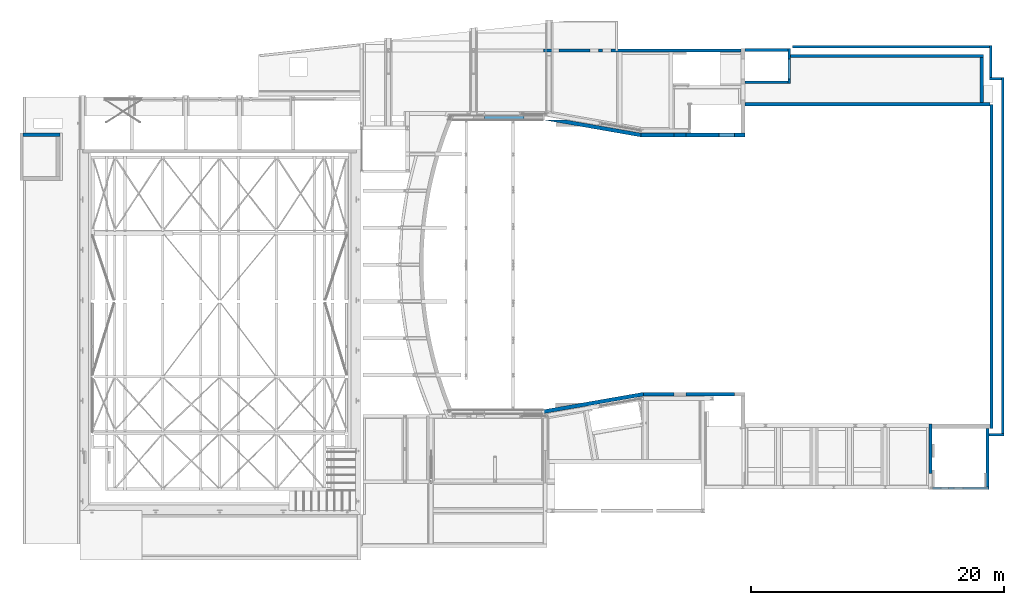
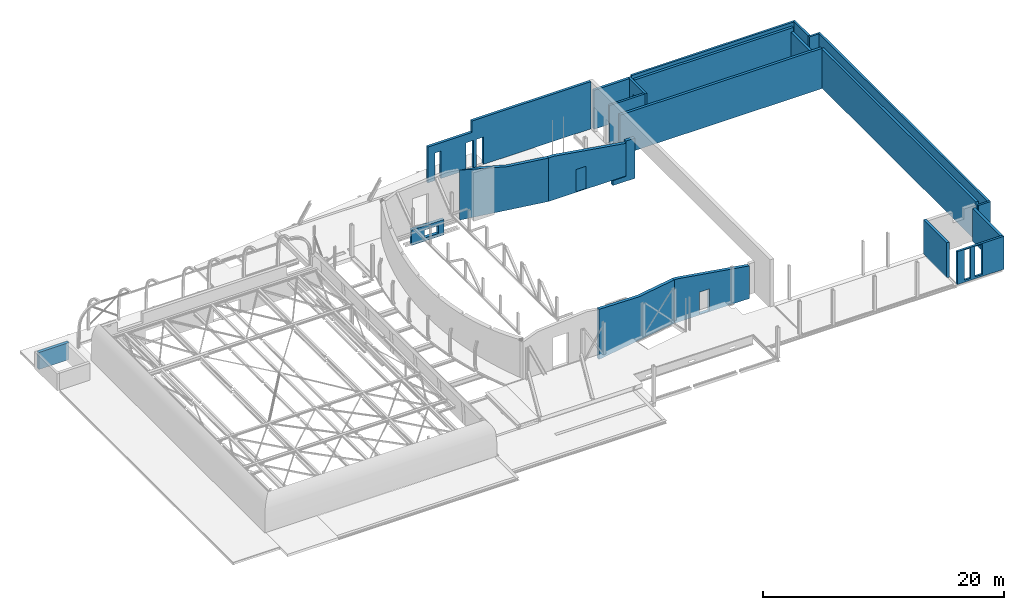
# One storey, part 32 of 38: 24 walls, 10 openings.
"""IFC2X3 building model written with IfcOpenShell, lengths in millimetres."""

from ifc_helpers import new_model, entity, si_unit, converted_unit, derived_unit, direction, frame, frame_2d, origin, origin_2d_with_axis, place, context, subcontext, project, spatial, polyline, rectangle, extrude, clip, halfspace, bounded_halfspace, faceted_brep, material, layer, layer_set, layer_usage, type_object, element, save


model = new_model("IFC2X3")

# Units and contexts
model_context = context("Model", 3, precision=0.01, world=origin(), true_north=direction((6.12303176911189e-17, 1.0)))
body_context = subcontext(model_context, "Body", "Model", "MODEL_VIEW")
ifc_project = project(units=[si_unit("LENGTHUNIT", "METRE", prefix="MILLI"), si_unit("AREAUNIT", "SQUARE_METRE", prefix="MILLI"), si_unit("VOLUMEUNIT", "CUBIC_METRE"), converted_unit("PLANEANGLEUNIT", "DEGREE", entity("IfcRatioMeasure", 0.0174532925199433), si_unit("PLANEANGLEUNIT", "RADIAN"), dimensions=[0, 0, 0, 0, 0, 0, 0]), si_unit("MASSUNIT", "GRAM", prefix="KILO"), derived_unit("MASSDENSITYUNIT", [(si_unit("MASSUNIT", "GRAM", prefix="KILO"), 1), (si_unit("LENGTHUNIT", "METRE"), -3)]), derived_unit("MOMENTOFINERTIAUNIT", [(si_unit("LENGTHUNIT", "METRE"), 4)]), si_unit("TIMEUNIT", "SECOND"), si_unit("FREQUENCYUNIT", "HERTZ"), si_unit("THERMODYNAMICTEMPERATUREUNIT", "DEGREE_CELSIUS"), derived_unit("THERMALTRANSMITTANCEUNIT", [(si_unit("MASSUNIT", "GRAM", prefix="KILO"), 1), (si_unit("THERMODYNAMICTEMPERATUREUNIT", "KELVIN"), -1), (si_unit("TIMEUNIT", "SECOND"), -3)]), derived_unit("VOLUMETRICFLOWRATEUNIT", [(si_unit("LENGTHUNIT", "METRE"), 3), (si_unit("TIMEUNIT", "SECOND"), -1)]), si_unit("ELECTRICCURRENTUNIT", "AMPERE"), si_unit("ELECTRICVOLTAGEUNIT", "VOLT"), si_unit("POWERUNIT", "WATT"), si_unit("FORCEUNIT", "NEWTON", prefix="KILO"), si_unit("ILLUMINANCEUNIT", "LUX"), si_unit("LUMINOUSFLUXUNIT", "LUMEN"), si_unit("LUMINOUSINTENSITYUNIT", "CANDELA"), derived_unit("USERDEFINED", [(si_unit("MASSUNIT", "GRAM", prefix="KILO"), -1), (si_unit("LENGTHUNIT", "METRE"), -2), (si_unit("TIMEUNIT", "SECOND"), 3), (si_unit("LUMINOUSFLUXUNIT", "LUMEN"), 1)]), derived_unit("LINEARVELOCITYUNIT", [(si_unit("LENGTHUNIT", "METRE"), 1), (si_unit("TIMEUNIT", "SECOND"), -1)]), si_unit("PRESSUREUNIT", "PASCAL"), derived_unit("USERDEFINED", [(si_unit("LENGTHUNIT", "METRE"), -2), (si_unit("MASSUNIT", "GRAM", prefix="KILO"), 1), (si_unit("TIMEUNIT", "SECOND"), -2)]), derived_unit("LINEARFORCEUNIT", [(si_unit("MASSUNIT", "GRAM", prefix="KILO"), 1), (si_unit("LENGTHUNIT", "METRE"), 1), (si_unit("TIMEUNIT", "SECOND"), -2), (si_unit("LENGTHUNIT", "METRE"), -1)]), derived_unit("PLANARFORCEUNIT", [(si_unit("MASSUNIT", "GRAM", prefix="KILO"), 1), (si_unit("LENGTHUNIT", "METRE"), 1), (si_unit("TIMEUNIT", "SECOND"), -2), (si_unit("LENGTHUNIT", "METRE"), -2)])], contexts=[model_context])

# Site, building, storey
site_placement = place(None, origin())
site = spatial("IfcSite", under=ifc_project, at=site_placement, Name="Theater aan de Parade", CompositionType="ELEMENT")
building_placement = place(site_placement, origin())
building = spatial("IfcBuilding", under=site, at=building_placement, Name="Theater aan de Parade", CompositionType="ELEMENT")
storey_placement = place(building_placement, frame((0.0, 0.0, 12480.0)))
storey = spatial("IfcBuildingStorey", under=building, at=storey_placement, Name="03 derde verdieping", CompositionType="ELEMENT", Elevation=12480.0)

# Walls
ifc_material_1 = material(Name="00_PBT_MAT_beton t.p.g.")
ifc_layer_1 = layer(ifc_material_1, 300.0)
ifc_layer_set_1 = layer_set([ifc_layer_1], Name="Basic Wall:28_PBT_WA_beton t.p.g._d=300_bestaand")
wall_type_1 = type_object("IfcWallType", Name="Basic Wall:28_PBT_WA_beton t.p.g._d=300_bestaand", PredefinedType="STANDARD", material=ifc_layer_set_1)
wall_1_placement = place(storey_placement, frame((51695.8570497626, 44057.7545700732, -400.0), z_axis=(0.0, 0.0, 1.0), x_axis=(0.985030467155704, -0.17238033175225, 0.0)))
element("IfcWall", 1, at=wall_1_placement, inside=storey, type_object=wall_type_1, Name="Basic Wall:28_PBT_WA_beton t.p.g._d=300_bestaand", ObjectType="Basic Wall:28_PBT_WA_beton t.p.g._d=300_bestaand", context=body_context, shape_type="Brep", body=[
    faceted_brep([(0.0, -150.0, 0.0), (7889.53116736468, -150.0, 0.0), (7889.53116736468, -150.0, 4410.0), (7876.50514575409, -150.0, 4410.0), (4244.02426653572, -150.0, 4410.0), (0.0, -150.0, 5072.12507686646), (7863.47912414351, 150.0, 0.0), (1714.28571428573, 150.0, 0.0), (1714.28571428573, 150.0, 4804.67336380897), (4244.02426653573, 150.0, 4410.0), (7863.47912414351, 150.0, 4410.0), (7876.50514575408, 0.0, 4410.0), (12.8310281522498, -147.754570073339, 0.0)], [[[0, 1, 2, 3, 4, 5]], [[6, 7, 8, 9, 10]], [[2, 1, 6, 10, 11]], [[1, 0, 12, 7, 6]], [[5, 4, 9, 8]], [[10, 9, 4, 3, 2, 11]], [[0, 5, 8, 7, 12]]]),
])
wall_2_placement = place(storey_placement, frame((59441.4285714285, 42700.0, -400.0)))
element("IfcWall", 2, at=wall_2_placement, inside=storey, type_object=wall_type_1, Name="Basic Wall:28_PBT_WA_beton t.p.g._d=300_bestaand", ObjectType="Basic Wall:28_PBT_WA_beton t.p.g._d=300_bestaand", context=body_context, shape_type="Brep", body=[
    faceted_brep([(3578.57142857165, -150.0, 2320.0), (3578.57142857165, -150.0, 80.0), (2628.57142857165, -150.0, 80.0), (2628.57142857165, -150.0, 2320.0), (0.0, -150.0, 0.0), (13.026021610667, -150.0, 0.0), (7414.82752953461, -150.0, 0.0), (7414.82752953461, -150.0, 3299.8500566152), (521.232684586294, -150.0, 4410.0), (0.0, -150.0, 4410.0), (3578.57142857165, 150.0, 80.0), (3578.57142857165, 150.0, 2320.0), (2628.57142857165, 150.0, 2320.0), (2628.57142857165, 150.0, 80.0), (7414.82752953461, 150.0, 0.0), (26.0520432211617, 150.0, 0.0), (26.0520432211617, 150.0, 4410.0), (521.232684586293, 150.0, 4410.0), (7414.82752953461, 150.0, 3299.8500566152)], [[[0, 1, 2, 3], [4, 5, 6, 7, 8, 9]], [[10, 11, 12, 13], [14, 15, 16, 17, 18]], [[6, 5, 4, 15, 14]], [[7, 6, 14, 18]], [[1, 0, 11, 10]], [[2, 1, 10, 13]], [[3, 2, 13, 12]], [[0, 3, 12, 11]], [[4, 9, 16, 15]], [[8, 7, 18, 17]], [[9, 8, 17, 16]]], outer=[[False, True], [False, True], [True], [True], [True], [True], [True], [True], [True], [True], [True]]),
])
wall_3_placement = place(storey_placement, frame((51584.4807077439, 20777.7545700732, -400.0), z_axis=(0.0, 0.0, 1.0), x_axis=(0.985030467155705, 0.172380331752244, 0.0)))
element("IfcWall", 3, at=wall_3_placement, inside=storey, type_object=wall_type_1, Name="Basic Wall:28_PBT_WA_beton t.p.g._d=300_bestaand", ObjectType="Basic Wall:28_PBT_WA_beton t.p.g._d=300_bestaand", context=body_context, shape_type="Brep", body=[
    faceted_brep([(0.0, -150.0, 0.0), (1740.33775750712, -150.0, 0.0), (8179.58746028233, -150.0, 0.0), (8179.58746028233, -150.0, 4412.79629492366), (4338.81184607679, -150.0, 4412.79629492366), (0.0, -150.0, 5089.70976863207), (26.0520432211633, 150.0, 0.0), (26.0520432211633, 150.0, 5085.64529667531), (4338.81184607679, 150.0, 4412.79629492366), (8192.61348189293, 150.0, 4412.79629492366), (8205.6395035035, 150.0, 4412.79629492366), (8205.6395035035, 150.0, 0.0), (13.0260216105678, 0.0, 5087.67753265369)], [[[0, 1, 2, 3, 4, 5]], [[6, 7, 8, 9, 10, 11]], [[0, 5, 12, 7, 6]], [[3, 2, 11, 10]], [[2, 1, 0, 6, 11]], [[4, 3, 10, 9, 8]], [[5, 4, 8, 7, 12]]]),
])
wall_4_placement = place(storey_placement, frame((59641.4285714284, 22190.0, -400.0)))
element("IfcWall", 4, at=wall_4_placement, inside=storey, type_object=wall_type_1, Name="Basic Wall:28_PBT_WA_beton t.p.g._d=300_bestaand", ObjectType="Basic Wall:28_PBT_WA_beton t.p.g._d=300_bestaand", context=body_context, shape_type="Brep", body=[
    faceted_brep([(3378.57142857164, -150.0, 2320.0), (3378.57142857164, -150.0, 80.0), (2428.57142857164, -150.0, 80.0), (2428.57142857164, -150.0, 2320.0), (26.0520432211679, -150.0, 0.0), (6164.6309506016, -150.0, 0.0), (7214.8275295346, -150.0, 0.0), (7214.8275295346, -150.0, 3309.93697115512), (307.079450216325, -150.0, 4412.79629492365), (26.0520432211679, -150.0, 4412.79629492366), (3378.57142857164, 150.0, 2320.0), (2428.57142857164, 150.0, 2320.0), (2428.57142857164, 150.0, 80.0), (3378.57142857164, 150.0, 80.0), (0.0, 150.0, 0.0), (0.0, 150.0, 4412.79629492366), (307.079450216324, 150.0, 4412.79629492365), (7214.8275295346, 150.0, 3309.93697115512), (7214.8275295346, 150.0, 0.0), (6164.6309506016, 150.0, 0.0)], [[[0, 1, 2, 3], [4, 5, 6, 7, 8, 9]], [[10, 11, 12, 13], [14, 15, 16, 17, 18, 19]], [[6, 5, 4, 14, 19, 18]], [[7, 6, 18, 17]], [[1, 0, 10, 13]], [[2, 1, 13, 12]], [[3, 2, 12, 11]], [[0, 3, 11, 10]], [[4, 9, 15, 14]], [[8, 7, 17, 16]], [[9, 8, 16, 15]]], outer=[[False, True], [False, True], [True], [True], [True], [True], [True], [True], [True], [True], [True]]),
])
ifc_material_2 = material(Name="00_PBT_MAT_beton t.p.g._C30/37")
ifc_layer_2 = layer(ifc_material_2, 300.0)
ifc_layer_set_2 = layer_set([ifc_layer_2], Name="Basic Wall:28_PBT_WA_beton t.p.g._d=300_C30/37")
ifc_layer_usage_1 = layer_usage(ifc_layer_set_2, "AXIS2", "POSITIVE", -150.0)
wall_type_2 = type_object("IfcWallType", Name="Basic Wall:28_PBT_WA_beton t.p.g._d=300_C30/37", PredefinedType="STANDARD", material=ifc_layer_set_2)
wall_5_placement = place(storey_placement, frame((13454.8570025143, 42720.0, -340.0), z_axis=(0.0, 0.0, 1.0), x_axis=(-1.0, 0.0, 0.0)))
element("IfcWallStandardCase", 5, at=wall_5_placement, inside=storey, type_object=wall_type_2, material=ifc_layer_usage_1, Name="Basic Wall:28_PBT_WA_beton t.p.g._d=300_C30/37", ObjectType="Basic Wall:28_PBT_WA_beton t.p.g._d=300_C30/37", context=body_context, shape_type="SweptSolid", body=[
    extrude(rectangle(XDim=2900.74444879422, YDim=300.000000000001, at=frame_2d((1450.37222439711, 7.38964445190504e-13), x_axis=(-1.0, 0.0))), origin(), (0.0, 0.0, 1.0), 1720.0),
])

# Wall, opening
ifc_layer_usage_2 = layer_usage(ifc_layer_set_2, "AXIS2", "NEGATIVE", 150.0)
wall_6_placement = place(storey_placement, frame((67706.2561009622, 42700.0, -950.0), z_axis=(0.0, 0.0, 1.0), x_axis=(-1.0, 0.0, 0.0)))
wall_6 = element("IfcWallStandardCase", 6, at=wall_6_placement, inside=storey, type_object=wall_type_2, material=ifc_layer_usage_2, Name="Basic Wall:28_PBT_WA_beton t.p.g._d=300_C30/37", ObjectType="Basic Wall:28_PBT_WA_beton t.p.g._d=300_C30/37", context=body_context, shape_type="SweptSolid", body=[
    extrude(rectangle(XDim=2096.25610096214, YDim=300.000000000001, at=frame_2d((1048.12805048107, 2.71427325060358e-12), x_axis=(-1.0, 0.0))), origin(), (0.0, 0.0, 1.0), 4074.99999999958),
])
opening_1_placement = place(wall_6_placement, origin())
element("IfcOpeningElement", 7, at=opening_1_placement, cuts=wall_6, Name="Basic Wall:28_PBT_WA_beton t.p.g._d=300_C30/37", ObjectType="Opening", context=body_context, shape_type="SweptSolid", body=[
    extrude(rectangle(XDim=3574.99999999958, YDim=1246.25610096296, at=origin_2d_with_axis()), frame((1473.12805048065, 150.0, 2287.49999999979), z_axis=(0.0, -1.0, 0.0), x_axis=(0.0, 0.0, 1.0)), (0.0, 0.0, 1.0), 300.0),
])

# Wall
ifc_layer_usage_3 = layer_usage(ifc_layer_set_2, "AXIS2", "NEGATIVE", 150.0)
wall_7_placement = place(storey_placement, frame((62070.0, 42700.0, -320.0)))
element("IfcWallStandardCase", 8, at=wall_7_placement, inside=storey, type_object=wall_type_2, material=ifc_layer_usage_3, Name="Basic Wall:28_PBT_WA_beton t.p.g._d=300_C30/37", ObjectType="Basic Wall:28_PBT_WA_beton t.p.g._d=300_C30/37", context=body_context, shape_type="SweptSolid", body=[
    extrude(rectangle(XDim=950.000000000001, YDim=300.000000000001, at=frame_2d((475.0, 0.0), x_axis=(-1.0, 0.0))), origin(), (0.0, 0.0, 1.0), 2240.0),
])

# Wall, opening
ifc_layer_usage_4 = layer_usage(ifc_layer_set_2, "AXIS2", "NEGATIVE", 150.0)
wall_8_placement = place(storey_placement, frame((47080.03525854, 44060.0, -1363.0)))
wall_8 = element("IfcWallStandardCase", 9, at=wall_8_placement, inside=storey, type_object=wall_type_2, material=ifc_layer_usage_4, Name="Basic Wall:28_PBT_WA_beton t.p.g._d=300_C30/37", ObjectType="Basic Wall:28_PBT_WA_beton t.p.g._d=300_C30/37", context=body_context, shape_type="Clipping", body=[
    clip(extrude(rectangle(XDim=3100.00000000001, YDim=300.000000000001, at=frame_2d((1550.0, 4.2632564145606e-14), x_axis=(-1.0, 0.0))), origin(), (0.0, 0.0, 1.0), 1563.0), halfspace(frame((3100.0, -150.0, 0.0), z_axis=(0.0, 0.0, -1.0), x_axis=(0.0, 1.0, 0.0)), False)),
])
opening_2_placement = place(wall_8_placement, origin())
element("IfcOpeningElement", 10, at=opening_2_placement, cuts=wall_8, Name="Basic Wall:28_PBT_WA_beton t.p.g._d=300_C30/37", ObjectType="Opening", context=body_context, shape_type="SweptSolid", body=[
    extrude(rectangle(XDim=790.896479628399, YDim=1330.0, at=frame_2d((4.32009983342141e-12, 1.08002495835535e-12), x_axis=(0.0, 1.0))), frame((1900.0, 150.0, 724.5517601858), z_axis=(0.0, -1.0, 0.0), x_axis=(1.0, 0.0, 0.0)), (0.0, 0.0, 1.0), 300.0),
])

ifc_layer_3 = layer(ifc_material_2, 250.0)
ifc_layer_set_3 = layer_set([ifc_layer_3], Name="Basic Wall:28_PBT_WA_beton t.p.g._d=250_C30/37")
ifc_layer_usage_5 = layer_usage(ifc_layer_set_3, "AXIS2", "POSITIVE", -125.0)
wall_type_3 = type_object("IfcWallType", Name="Basic Wall:28_PBT_WA_beton t.p.g._d=250_C30/37", PredefinedType="STANDARD", material=ifc_layer_set_3)
wall_9_placement = place(storey_placement, frame((82375.0084217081, 19810.0002435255, 0.0), z_axis=(0.0, 0.0, 1.0), x_axis=(0.0, -1.0, 0.0)))
wall_9 = element("IfcWallStandardCase", 11, at=wall_9_placement, inside=storey, type_object=wall_type_3, material=ifc_layer_usage_5, Name="Basic Wall:28_PBT_WA_beton t.p.g._d=250_C30/37", ObjectType="Basic Wall:28_PBT_WA_beton t.p.g._d=250_C30/37", context=body_context, shape_type="Clipping", body=[
    clip(clip(clip(extrude(rectangle(XDim=3885.0002435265, YDim=250.000000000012, at=frame_2d((1942.50012176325, -1.33582034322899e-12), x_axis=(-1.0, 0.0))), origin(), (0.0, 0.0, 1.0), 3564.99999999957), bounded_halfspace(frame((3885.0002435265, -15.0, 0.0), z_axis=(0.0, 0.0, 1.0), x_axis=(0.0, 1.0, 0.0)), True, frame((3885.0002435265, -15.0, 0.0), z_axis=(0.0, 0.0, 1.0), x_axis=(0.0, 1.0, 0.0)), polyline([(0.0, 0.0), (140.0, 0.0), (140.0, 3379.0), (-110.0, 3379.0), (-110.0, 0.0), (0.0, 0.0)]))), bounded_halfspace(frame((506.000243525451, 125.0, 110.0), z_axis=(0.0, 0.0, 1.0), x_axis=(0.0, 1.0, 0.0)), True, frame((506.000243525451, 125.0, 110.0), z_axis=(0.0, 0.0, 1.0), x_axis=(0.0, 1.0, 0.0)), polyline([(0.0, 0.0), (1.7152643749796e-09, 506.000243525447), (-250.0, 506.000243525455), (-250.0, 0.0), (0.0, 0.0)]))), bounded_halfspace(frame((506.00024352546, -125.0, 110.0), z_axis=(1.0, 0.0, 0.0), x_axis=(0.0, 0.0, 1.0)), True, frame((506.00024352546, -125.0, 110.0), z_axis=(1.0, 0.0, 0.0), x_axis=(0.0, 0.0, 1.0)), polyline([(0.0, 0.0), (-110.0, 0.0), (-110.0, -250.0), (0.0, -250.0), (0.0, 0.0)]))),
])
opening_3_placement = place(wall_9_placement, origin())
element("IfcOpeningElement", 12, at=opening_3_placement, cuts=wall_9, Name="Basic Wall:28_PBT_WA_beton t.p.g._d=250_C30/37", ObjectType="Opening", context=body_context, shape_type="SweptSolid", body=[
    extrude(rectangle(XDim=2219.99999999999, YDim=954.000000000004, at=frame_2d((1.13686837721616e-12, 0.0), x_axis=(1.0, 0.0))), frame((1114.55531182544, -125.0, -1310.0), z_axis=(0.0, 1.0, 0.0), x_axis=(0.0, 0.0, -1.0)), (0.0, 0.0, 1.0), 250.000000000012),
])

# Wall
ifc_layer_usage_6 = layer_usage(ifc_layer_set_3, "AXIS2", "POSITIVE", -125.0)
wall_10_placement = place(storey_placement, frame((87096.0, 45135.0, -120.0), z_axis=(0.0, 0.0, 1.0), x_axis=(-1.0, 0.0, 0.0)))
element("IfcWallStandardCase", 13, at=wall_10_placement, inside=storey, type_object=wall_type_3, material=ifc_layer_usage_6, Name="Basic Wall:28_PBT_WA_beton t.p.g._d=250_C30/37", ObjectType="Basic Wall:28_PBT_WA_beton t.p.g._d=250_C30/37", context=body_context, shape_type="SweptSolid", body=[
    extrude(rectangle(XDim=19389.7438990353, YDim=249.999999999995, at=frame_2d((9694.87194951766, -3.14770431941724e-12), x_axis=(-1.0, 0.0))), origin(), (0.0, 0.0, 1.0), 4085.0),
])

# Wall, openings
ifc_layer_usage_7 = layer_usage(ifc_layer_set_3, "AXIS2", "NEGATIVE", 125.0)
wall_11_placement = place(storey_placement, frame((67356.2561009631, 49386.9979908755, 120.0), z_axis=(0.0, 0.0, 1.0), x_axis=(-1.0, 0.0, 0.0)))
wall_11 = element("IfcWallStandardCase", 14, at=wall_11_placement, inside=storey, type_object=wall_type_3, material=ifc_layer_usage_7, Name="Basic Wall:28_PBT_WA_beton t.p.g._d=250_C30/37", ObjectType="Basic Wall:28_PBT_WA_beton t.p.g._d=250_C30/37", context=body_context, shape_type="SweptSolid", body=[
    extrude(rectangle(XDim=15629.1314244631, YDim=249.999999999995, at=frame_2d((7814.56571223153, 1.406874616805e-12), x_axis=(-1.0, 0.0))), origin(), (0.0, 0.0, 1.0), 4790.0),
])
opening_4_placement = place(wall_11_placement, origin())
element("IfcOpeningElement", 15, at=opening_4_placement, cuts=wall_11, Name="Basic Wall:28_PBT_WA_beton t.p.g._d=250_C30/37", ObjectType="Opening", context=body_context, shape_type="SweptSolid", body=[
    extrude(rectangle(XDim=2779.99999999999, YDim=570.0, at=frame_2d((4.32009983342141e-12, 0.0), x_axis=(0.0, 1.0))), frame((14666.0398777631, -125.0, 1390.0), z_axis=(0.0, 1.0, 0.0), x_axis=(1.0, 0.0, 0.0)), (0.0, 0.0, 1.0), 249.999999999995),
])
opening_5_placement = place(wall_11_placement, origin())
element("IfcOpeningElement", 16, at=opening_5_placement, cuts=wall_11, Name="Basic Wall:28_PBT_WA_beton t.p.g._d=250_C30/37", ObjectType="Opening", context=body_context, shape_type="SweptSolid", body=[
    extrude(rectangle(XDim=2779.99999999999, YDim=680.000000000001, at=frame_2d((0.0, 0.0), x_axis=(0.0, 1.0))), frame((11613.7078121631, -125.0, 1390.0), z_axis=(0.0, 1.0, 0.0), x_axis=(1.0, 0.0, 0.0)), (0.0, 0.0, 1.0), 249.999999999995),
])
opening_6_placement = place(wall_11_placement, origin())
element("IfcOpeningElement", 17, at=opening_6_placement, cuts=wall_11, Name="Basic Wall:28_PBT_WA_beton t.p.g._d=250_C30/37", ObjectType="Opening", context=body_context, shape_type="SweptSolid", body=[
    extrude(rectangle(XDim=2779.99999999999, YDim=680.000000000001, at=frame_2d((0.0, 0.0), x_axis=(0.0, 1.0))), frame((10613.7078121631, -125.0, 1390.0), z_axis=(0.0, 1.0, 0.0), x_axis=(1.0, 0.0, 0.0)), (0.0, 0.0, 1.0), 249.999999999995),
])
opening_7_placement = place(wall_11_placement, origin())
element("IfcOpeningElement", 18, at=opening_7_placement, cuts=wall_11, Name="Basic Wall:28_PBT_WA_beton t.p.g._d=250_C30/37", ObjectType="Opening", context=body_context, shape_type="SweptSolid", body=[
    extrude(rectangle(XDim=1155.0, YDim=4230.55755740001, at=frame_2d((-1.08002495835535e-12, 0.0), x_axis=(1.0, 0.0))), frame((13513.8526457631, 125.0, 4212.5), z_axis=(0.0, -1.0, 0.0), x_axis=(0.0, 0.0, 1.0)), (0.0, 0.0, 1.0), 250.0),
])

# Walls
ifc_layer_usage_8 = layer_usage(ifc_layer_set_3, "AXIS2", "POSITIVE", -125.0)
wall_12_placement = place(storey_placement, frame((86555.1683175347, 48947.0, 200.0), z_axis=(0.0, 0.0, 1.0), x_axis=(-1.0, 0.0, 0.0)))
element("IfcWallStandardCase", 19, at=wall_12_placement, inside=storey, type_object=wall_type_3, material=ifc_layer_usage_8, Name="Basic Wall:28_PBT_WA_beton t.p.g._d=250_C30/37", ObjectType="Basic Wall:28_PBT_WA_beton t.p.g._d=250_C30/37", context=body_context, shape_type="SweptSolid", body=[
    extrude(rectangle(XDim=15248.1683175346, YDim=249.999999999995, at=frame_2d((7624.08415876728, -1.06581410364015e-13), x_axis=(-1.0, 0.0))), origin(), (0.0, 0.0, 1.0), 3765.00000000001),
])
ifc_layer_usage_9 = layer_usage(ifc_layer_set_3, "AXIS2", "NEGATIVE", 125.0)
wall_13_placement = place(storey_placement, frame((86891.0, 19460.0002435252, 0.0), z_axis=(0.0, 0.0, 1.0), x_axis=(0.0, -1.0, 0.0)))
element("IfcWallStandardCase", 20, at=wall_13_placement, inside=storey, type_object=wall_type_3, material=ifc_layer_usage_9, Name="Basic Wall:28_PBT_WA_beton t.p.g._d=250_C30/37", ObjectType="Basic Wall:28_PBT_WA_beton t.p.g._d=250_C30/37", context=body_context, shape_type="SweptSolid", body=[
    extrude(rectangle(XDim=4610.00024352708, YDim=250.000000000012, at=frame_2d((2305.00012176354, 1.49213974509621e-13), x_axis=(-1.0, 0.0))), origin(), (0.0, 0.0, 1.0), 3340.0),
])
ifc_layer_usage_10 = layer_usage(ifc_layer_set_3, "AXIS2", "NEGATIVE", 125.0)
wall_14_placement = place(storey_placement, frame((71107.0, 49437.0, -80.0), z_axis=(0.0, 0.0, 1.0), x_axis=(-1.0, 0.0, 0.0)))
element("IfcWallStandardCase", 21, at=wall_14_placement, inside=storey, type_object=wall_type_3, material=ifc_layer_usage_10, Name="Basic Wall:28_PBT_WA_beton t.p.g._d=250_C30/37", ObjectType="Basic Wall:28_PBT_WA_beton t.p.g._d=250_C30/37", context=body_context, shape_type="SweptSolid", body=[
    extrude(rectangle(XDim=3400.74389903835, YDim=249.999999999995, at=frame_2d((1700.37194951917, 1.62003743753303e-12), x_axis=(-1.0, 0.0))), origin(), (0.0, 0.0, 1.0), 3964.99999999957),
])
ifc_layer_usage_11 = layer_usage(ifc_layer_set_3, "AXIS2", "POSITIVE", -125.0)
wall_15_placement = place(storey_placement, frame((86430.1683175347, 45260.0, 200.0), z_axis=(0.0, 0.0, 1.0), x_axis=(0.0, 1.0, 0.0)))
element("IfcWallStandardCase", 22, at=wall_15_placement, inside=storey, type_object=wall_type_3, material=ifc_layer_usage_11, Name="Basic Wall:28_PBT_WA_beton t.p.g._d=250_C30/37", ObjectType="Basic Wall:28_PBT_WA_beton t.p.g._d=250_C30/37", context=body_context, shape_type="SweptSolid", body=[
    extrude(rectangle(XDim=3561.99999999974, YDim=250.000000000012, at=frame_2d((1780.99999999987, -2.92743607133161e-12), x_axis=(-1.0, 0.0))), origin(), (0.0, 0.0, 1.0), 3365.0),
])

# Wall, opening
ifc_layer_4 = layer(ifc_material_2, 200.0)
ifc_layer_set_4 = layer_set([ifc_layer_4], Name="Basic Wall:28_PBT_WA_beton t.p.g._d=200_C30/37")
ifc_layer_usage_12 = layer_usage(ifc_layer_set_4, "AXIS2", "NEGATIVE", 100.0)
wall_type_4 = type_object("IfcWallType", Name="Basic Wall:28_PBT_WA_beton t.p.g._d=200_C30/37", PredefinedType="STANDARD", material=ifc_layer_set_4)
wall_16_placement = place(storey_placement, frame((71207.0, 46761.8723406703, -90.0), z_axis=(0.0, 0.0, 1.0), x_axis=(0.0, 1.0, 0.0)))
wall_16 = element("IfcWallStandardCase", 23, at=wall_16_placement, inside=storey, type_object=wall_type_4, material=ifc_layer_usage_12, Name="Basic Wall:28_PBT_WA_beton t.p.g._d=200_C30/37", ObjectType="Basic Wall:28_PBT_WA_beton t.p.g._d=200_C30/37", context=body_context, shape_type="SweptSolid", body=[
    extrude(rectangle(XDim=2800.12765932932, YDim=200.000000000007, at=frame_2d((1400.06382966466, 2.47268872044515e-12), x_axis=(-1.0, 0.0))), origin(), (0.0, 0.0, 1.0), 3965.0),
])
opening_8_placement = place(wall_16_placement, origin())
element("IfcOpeningElement", 24, at=opening_8_placement, cuts=wall_16, Name="Basic Wall:28_PBT_WA_beton t.p.g._d=200_C30/37", ObjectType="Opening", context=body_context, shape_type="SweptSolid", body=[
    extrude(rectangle(XDim=2449.99999999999, YDim=1580.0, at=frame_2d((0.0, -1.13686837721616e-12), x_axis=(0.0, 1.0))), frame((1165.0, -100.0, 1515.0), z_axis=(0.0, 1.0, 0.0), x_axis=(1.0, 0.0, 0.0)), (0.0, 0.0, 1.0), 200.000000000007),
])

# Wall
ifc_layer_usage_13 = layer_usage(ifc_layer_set_4, "AXIS2", "POSITIVE", -100.0)
wall_17_placement = place(storey_placement, frame((71107.0, 46861.8723406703, -80.0), z_axis=(0.0, 0.0, 1.0), x_axis=(-1.0, 0.0, 0.0)))
element("IfcWallStandardCase", 25, at=wall_17_placement, inside=storey, type_object=wall_type_4, material=ifc_layer_usage_13, Name="Basic Wall:28_PBT_WA_beton t.p.g._d=200_C30/37", ObjectType="Basic Wall:28_PBT_WA_beton t.p.g._d=200_C30/37", context=body_context, shape_type="Clipping", body=[
    clip(extrude(rectangle(XDim=3400.74389903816, YDim=200.000000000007, at=frame_2d((1700.37194951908, -1.61293201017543e-12), x_axis=(-1.0, 0.0))), origin(), (0.0, 0.0, 1.0), 3955.0), bounded_halfspace(frame((0.0, -100.0, 3955.0), z_axis=(0.0, 0.0, -1.0), x_axis=(0.0, 1.0, 0.0)), True, frame((0.0, -100.0, 3955.0), z_axis=(0.0, 0.0, -1.0), x_axis=(0.0, 1.0, 0.0)), polyline([(0.0, 0.0), (200.0, 0.0), (200.0, 3400.74389903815), (0.0, 3400.74389903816), (0.0, 0.0)]))),
])

# Wall, openings
ifc_layer_usage_14 = layer_usage(ifc_layer_set_4, "AXIS2", "POSITIVE", -100.0)
wall_18_placement = place(storey_placement, frame((82546.0, 14750.0, 0.0)))
wall_18 = element("IfcWallStandardCase", 26, at=wall_18_placement, inside=storey, type_object=wall_type_4, material=ifc_layer_usage_14, Name="Basic Wall:28_PBT_WA_beton t.p.g._d=200_C30/37", ObjectType="Basic Wall:28_PBT_WA_beton t.p.g._d=200_C30/37", context=body_context, shape_type="SweptSolid", body=[
    extrude(rectangle(XDim=4469.99999999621, YDim=199.999999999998, at=frame_2d((2234.99999999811, 7.105427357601e-13), x_axis=(-1.0, 0.0))), origin(), (0.0, 0.0, 1.0), 3340.0),
])
opening_9_placement = place(wall_18_placement, origin())
element("IfcOpeningElement", 27, at=opening_9_placement, cuts=wall_18, Name="Basic Wall:28_PBT_WA_beton t.p.g._d=200_C30/37", ObjectType="Opening", context=body_context, shape_type="SweptSolid", body=[
    extrude(rectangle(XDim=3054.99999999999, YDim=591.000000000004, at=frame_2d((8.66862137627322e-12, -1.02318153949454e-12), x_axis=(0.0, 1.0))), frame((964.477628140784, -100.0, 1727.50000000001), z_axis=(0.0, 1.0, 0.0), x_axis=(1.0, 0.0, 0.0)), (0.0, 0.0, 1.0), 200.000000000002),
])
opening_10_placement = place(wall_18_placement, origin())
element("IfcOpeningElement", 28, at=opening_10_placement, cuts=wall_18, Name="Basic Wall:28_PBT_WA_beton t.p.g._d=200_C30/37", ObjectType="Opening", context=body_context, shape_type="SweptSolid", body=[
    extrude(rectangle(XDim=3054.99999999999, YDim=701.999999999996, at=frame_2d((-8.66862137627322e-12, -1.02318153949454e-12), x_axis=(0.0, 1.0))), frame((2042.52535709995, -100.0, 1727.50000000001), z_axis=(0.0, 1.0, 0.0), x_axis=(1.0, 0.0, 0.0)), (0.0, 0.0, 1.0), 200.000000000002),
])

# Walls
ifc_material_3 = material(Name="00_PBT_MAT_beton prefab")
ifc_layer_5 = layer(ifc_material_3, 200.0)
ifc_layer_set_5 = layer_set([ifc_layer_5], Name="Basic Wall:28_PBT_WA_beton prefab_d=200")
ifc_layer_usage_15 = layer_usage(ifc_layer_set_5, "AXIS2", "POSITIVE", -100.0)
wall_type_5 = type_object("IfcWallType", Name="Basic Wall:28_PBT_WA_beton prefab_d=200", PredefinedType="STANDARD", material=ifc_layer_set_5)
wall_19_placement = place(storey_placement, frame((87016.0, 18989.9999114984, -80.0)))
element("IfcWallStandardCase", 29, at=wall_19_placement, inside=storey, type_object=wall_type_5, material=ifc_layer_usage_15, Name="Basic Wall:28_PBT_WA_beton prefab_d=200", ObjectType="Basic Wall:28_PBT_WA_beton prefab_d=200", context=body_context, shape_type="Clipping", body=[
    clip(clip(extrude(rectangle(XDim=1170.00000000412, YDim=200.000000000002, at=frame_2d((585.000000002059, -1.20792265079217e-13), x_axis=(-1.0, 0.0))), origin(), (0.0, 0.0, 1.0), 3955.0), bounded_halfspace(frame((1170.0, -100.0, 0.0), z_axis=(0.0, 0.0, 1.0), x_axis=(0.0, 1.0, 0.0)), True, frame((1170.0, -100.0, 0.0), z_axis=(0.0, 0.0, 1.0), x_axis=(0.0, 1.0, 0.0)), polyline([(0.0, 0.0), (200.0, 0.0), (200.0, 1170.0), (0.0, 1170.0), (0.0, 0.0)]))), bounded_halfspace(frame((0.0, -100.0, 3955.0), z_axis=(0.0, 0.0, -1.0), x_axis=(0.0, 1.0, 0.0)), True, frame((0.0, -100.0, 3955.0), z_axis=(0.0, 0.0, -1.0), x_axis=(0.0, 1.0, 0.0)), polyline([(0.0, 0.0), (200.0, 0.0), (200.0, 970.0), (200.0, 1170.0), (0.0, 1170.0), (0.0, 0.0)]))),
])
ifc_layer_usage_16 = layer_usage(ifc_layer_set_5, "AXIS2", "NEGATIVE", 100.0)
wall_20_placement = place(storey_placement, frame((88086.0, 47270.8149236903, -90.0), z_axis=(0.0, 0.0, 1.0), x_axis=(0.0, -1.0, 0.0)))
element("IfcWallStandardCase", 30, at=wall_20_placement, inside=storey, type_object=wall_type_5, material=ifc_layer_usage_16, Name="Basic Wall:28_PBT_WA_beton prefab_d=200", ObjectType="Basic Wall:28_PBT_WA_beton prefab_d=200", context=body_context, shape_type="Clipping", body=[
    clip(extrude(rectangle(XDim=28180.815012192, YDim=199.999999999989, at=frame_2d((14090.407506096, -2.63611354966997e-12), x_axis=(-1.0, 0.0))), origin(), (0.0, 0.0, 1.0), 3965.0), bounded_halfspace(frame((0.0, -100.0, 3965.0), z_axis=(0.0, 0.0, -1.0), x_axis=(0.0, 1.0, 0.0)), True, frame((0.0, -100.0, 3965.0), z_axis=(0.0, 0.0, -1.0), x_axis=(0.0, 1.0, 0.0)), polyline([(0.0, 0.0), (200.0, 0.0), (200.0, 28180.815012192), (0.0, 28180.815012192), (0.0, 200.0), (0.0, 0.0)]))),
])
ifc_layer_usage_17 = layer_usage(ifc_layer_set_5, "AXIS2", "POSITIVE", -100.0)
wall_21_placement = place(storey_placement, frame((87986.0, 47170.8149236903, -90.0), z_axis=(0.0, 0.0, 1.0), x_axis=(-1.0, 0.0, 0.0)))
element("IfcWallStandardCase", 31, at=wall_21_placement, inside=storey, type_object=wall_type_5, material=ifc_layer_usage_17, Name="Basic Wall:28_PBT_WA_beton prefab_d=200", ObjectType="Basic Wall:28_PBT_WA_beton prefab_d=200", context=body_context, shape_type="Clipping", body=[
    clip(extrude(rectangle(XDim=931.00000000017, YDim=200.000000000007, at=frame_2d((465.500000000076, -1.11555209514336e-12), x_axis=(-1.0, 0.0))), origin(), (0.0, 0.0, 1.0), 3965.0), bounded_halfspace(frame((0.0, -100.0, 3965.0), z_axis=(0.0, 0.0, -1.0), x_axis=(0.0, 1.0, 0.0)), True, frame((0.0, -100.0, 3965.0), z_axis=(0.0, 0.0, -1.0), x_axis=(0.0, 1.0, 0.0)), polyline([(0.0, 0.0), (200.0, 0.0), (200.0, 931.0), (0.0, 931.0), (0.0, 731.0), (0.0, 0.0)]))),
])
ifc_layer_usage_18 = layer_usage(ifc_layer_set_5, "AXIS2", "NEGATIVE", 100.0)
wall_22_placement = place(storey_placement, frame((87155.0, 49802.0, -90.0), z_axis=(0.0, 0.0, 1.0), x_axis=(0.0, -1.0, 0.0)))
element("IfcWallStandardCase", 32, at=wall_22_placement, inside=storey, type_object=wall_type_5, material=ifc_layer_usage_18, Name="Basic Wall:28_PBT_WA_beton prefab_d=200", ObjectType="Basic Wall:28_PBT_WA_beton prefab_d=200", context=body_context, shape_type="Clipping", body=[
    clip(extrude(rectangle(XDim=2531.18507630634, YDim=199.999999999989, at=frame_2d((1265.59253815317, 6.68620714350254e-12), x_axis=(-1.0, 0.0))), origin(), (0.0, 0.0, 1.0), 3965.0), bounded_halfspace(frame((0.0, -100.0, 3965.0), z_axis=(0.0, 0.0, -1.0), x_axis=(0.0, 1.0, 0.0)), True, frame((0.0, -100.0, 3965.0), z_axis=(0.0, 0.0, -1.0), x_axis=(0.0, 1.0, 0.0)), polyline([(0.0, 0.0), (200.0, 0.0), (200.0, 2531.18507630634), (0.0, 2531.18507630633), (0.0, 200.0), (0.0, 0.0)]))),
])
ifc_layer_usage_19 = layer_usage(ifc_layer_set_5, "AXIS2", "POSITIVE", -100.0)
wall_23_placement = place(storey_placement, frame((87055.0, 49702.0, -90.0), z_axis=(0.0, 0.0, 1.0), x_axis=(-1.0, 0.0, 0.0)))
element("IfcWallStandardCase", 33, at=wall_23_placement, inside=storey, type_object=wall_type_5, material=ifc_layer_usage_19, Name="Basic Wall:28_PBT_WA_beton prefab_d=200", ObjectType="Basic Wall:28_PBT_WA_beton prefab_d=200", context=body_context, shape_type="Clipping", body=[
    clip(extrude(rectangle(XDim=15598.582194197, YDim=200.000000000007, at=frame_2d((7799.2910970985, -1.96109795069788e-12), x_axis=(-1.0, 0.0))), origin(), (0.0, 0.0, 1.0), 3965.0), bounded_halfspace(frame((0.0, -100.0, 3965.0), z_axis=(0.0, 0.0, -1.0), x_axis=(0.0, 1.0, 0.0)), True, frame((0.0, -100.0, 3965.0), z_axis=(0.0, 0.0, -1.0), x_axis=(0.0, 1.0, 0.0)), polyline([(0.0, 0.0), (200.0, 0.0), (200.0, 15598.5821941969), (0.0, 15598.582194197), (0.0, 0.0)]))),
])
ifc_material_4 = material(Name="00_PBT_MAT_beton t.p.g._C40/50")
ifc_layer_6 = layer(ifc_material_4, 230.0)
ifc_layer_set_6 = layer_set([ifc_layer_6], Name="Basic Wall:28_PBT_WA_beton t.p.g._d=230_C40/50")
ifc_layer_usage_20 = layer_usage(ifc_layer_set_6, "AXIS2", "NEGATIVE", 115.0)
wall_type_6 = type_object("IfcWallType", Name="Basic Wall:28_PBT_WA_beton t.p.g._d=230_C40/50", PredefinedType="STANDARD", material=ifc_layer_set_6)
wall_24_placement = place(storey_placement, frame((87211.0, 45135.0, -90.0), z_axis=(0.0, 0.0, 1.0), x_axis=(0.0, -1.0, 0.0)))
element("IfcWallStandardCase", 34, at=wall_24_placement, inside=storey, type_object=wall_type_6, material=ifc_layer_usage_20, Name="Basic Wall:28_PBT_WA_beton t.p.g._d=230_C40/50", ObjectType="Basic Wall:28_PBT_WA_beton t.p.g._d=230_C40/50", context=body_context, shape_type="Clipping", body=[
    clip(extrude(rectangle(XDim=25674.9997564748, YDim=230.000000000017, at=frame_2d((12837.4998782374, 6.08935124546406e-12), x_axis=(-1.0, 0.0))), origin(), (0.0, 0.0, 1.0), 3965.0), bounded_halfspace(frame((0.0, -115.0, 3965.0), z_axis=(0.0, 0.0, -1.0), x_axis=(0.0, 1.0, 0.0)), True, frame((0.0, -115.0, 3965.0), z_axis=(0.0, 0.0, -1.0), x_axis=(0.0, 1.0, 0.0)), polyline([(0.0, 0.0), (230.0, 0.0), (230.0, 25674.9997564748), (0.0, 25674.9997564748), (0.0, 0.0)]))),
])

save(model, "model.ifc")
